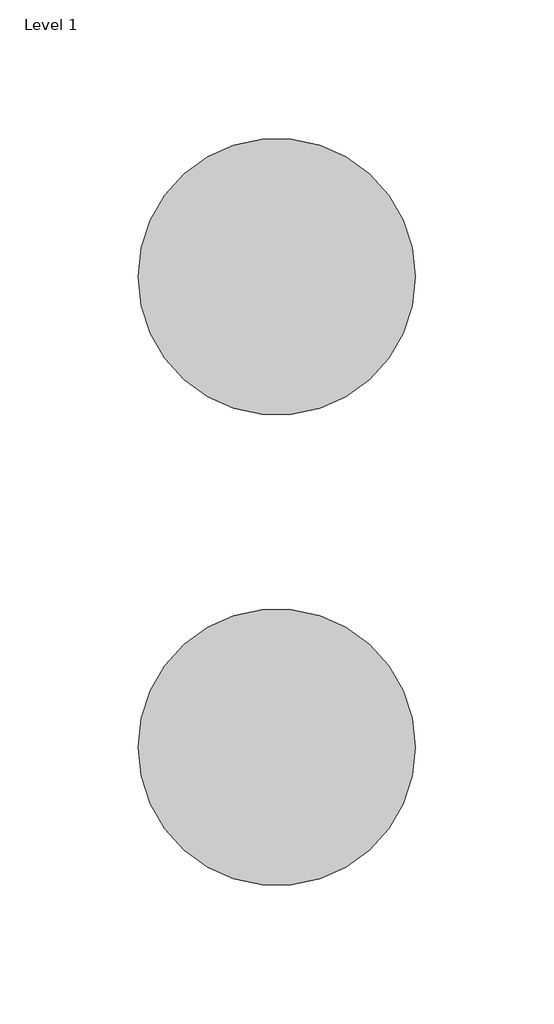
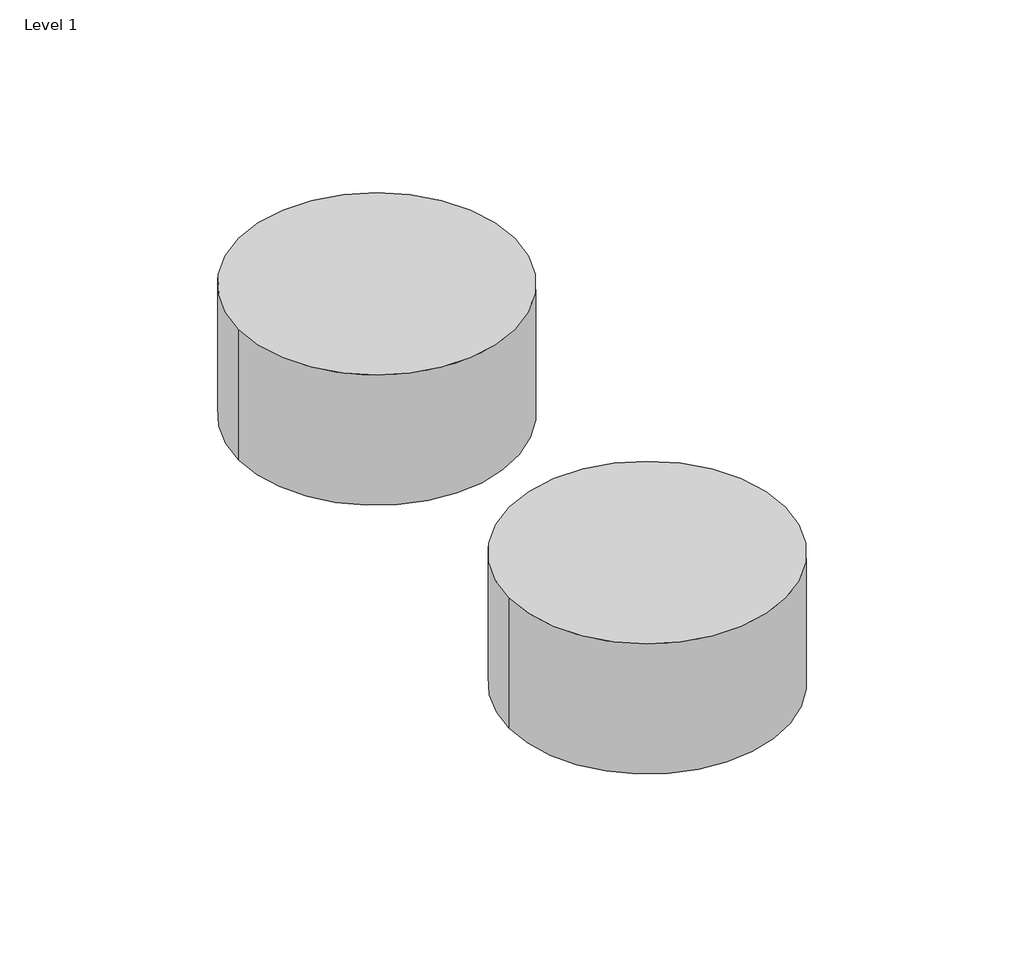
# One storey, incomplete: 2 proxies.
"""IFC4 building model written with IfcOpenShell, lengths in millimetres."""

import ifcopenshell
import ifcopenshell.guid

model = None  # the IFC model being written
_history = None  # IfcOwnerHistory: only IFC2X3 demands one
_inside = {}  # id of a spatial element -> (the spatial element, [elements in it])
_under = {}  # id of a project, library or spatial element -> (it, [spatial elements below it])
_declared = {}  # id of a project -> (the project, [libraries it declares])
_typed = {}  # id of a type object -> (the type object, [elements of that type])
_made_of = {}  # id of a material, layer set ... -> (it, [elements and type objects made of it])


def new_model(schema):
    """Start an empty IFC model of exactly this schema.

    Asked for "IFC4X3", IfcOpenShell would pick the latest addendum, in which some entities
    have other attributes; the version numbers below select the first issue.
    IFC2X3 requires an IfcOwnerHistory on every rooted entity: one is made here for all.
    """
    global model, _history
    if schema == "IFC4X3":
        model = ifcopenshell.file(schema_version=(4, 3, 0, 0))
    else:
        model = ifcopenshell.file(schema=schema)
    _inside.clear()
    _under.clear()
    _declared.clear()
    _typed.clear()
    _made_of.clear()
    _history = None
    if model.schema == "IFC2X3":
        org = make("IfcOrganization", Name="unknown")
        user = make(
            "IfcPersonAndOrganization",
            ThePerson=make("IfcPerson", FamilyName="unknown"),
            TheOrganization=org,
        )
        app = make(
            "IfcApplication",
            ApplicationDeveloper=org,
            Version="unknown",
            ApplicationFullName="unknown",
            ApplicationIdentifier="unknown",
        )
        _history = make(
            "IfcOwnerHistory",
            OwningUser=user,
            OwningApplication=app,
            ChangeAction="ADDED",
            CreationDate=0,
        )
    return model


def make(cls, **values):
    """One entity of the class cls with the attributes given. An attribute that is None is left unset."""
    return model.create_entity(
        cls, **{name: value for name, value in values.items() if value is not None}
    )


def rooted(cls, **values):
    """An entity with a GlobalId (a new one), such as an element, a storey or a relation."""
    return make(cls, GlobalId=ifcopenshell.guid.new(), OwnerHistory=_history, **values)


def si_unit(unit_type, name, prefix=None):
    """IfcSIUnit, for example si_unit("LENGTHUNIT", "METRE", prefix="MILLI")."""
    return make("IfcSIUnit", UnitType=unit_type, Prefix=prefix, Name=name)


def assignment(units):
    """IfcUnitAssignment: the units of a project."""
    return None if units is None else make("IfcUnitAssignment", Units=units)


def point(xyz):
    """IfcCartesianPoint."""
    return None if xyz is None else make("IfcCartesianPoint", Coordinates=xyz)


def direction(xyz):
    """IfcDirection."""
    return None if xyz is None else make("IfcDirection", DirectionRatios=xyz)


def frame(location, z_axis=None, x_axis=None):
    """IfcAxis2Placement3D, a coordinate frame: its origin and axes. An axis left out is left unset."""
    return make(
        "IfcAxis2Placement3D",
        Location=point(location),
        Axis=direction(z_axis),
        RefDirection=direction(x_axis),
    )


def frame_2d(location, x_axis=None):
    """IfcAxis2Placement2D, a coordinate frame in the plane: its origin and x axis."""
    return make(
        "IfcAxis2Placement2D", Location=point(location), RefDirection=direction(x_axis)
    )


def origin():
    """The frame at (0, 0, 0) with its axes left unset."""
    return frame((0.0, 0.0, 0.0))


def origin_with_axes():
    """The frame at (0, 0, 0) with the z axis (0, 0, 1) and the x axis (1, 0, 0) written out."""
    return frame((0.0, 0.0, 0.0), z_axis=(0.0, 0.0, 1.0), x_axis=(1.0, 0.0, 0.0))


def origin_2d():
    """The frame at (0, 0) in the plane with its x axis left unset."""
    return frame_2d((0.0, 0.0))


def place(relative_to, where):
    """IfcLocalPlacement: puts the frame where relative to a parent placement (None: the world)."""
    return make(
        "IfcLocalPlacement", PlacementRelTo=relative_to, RelativePlacement=where
    )


def context(
    kind, dimensions, precision=None, world=None, true_north=None, identifier=None
):
    """IfcGeometricRepresentationContext, for example the 3D "Model" context."""
    return make(
        "IfcGeometricRepresentationContext",
        ContextIdentifier=identifier,
        ContextType=kind,
        CoordinateSpaceDimension=dimensions,
        Precision=precision,
        WorldCoordinateSystem=world,
        TrueNorth=true_north,
    )


def project(units=None, contexts=None):
    """IfcProject with its units and contexts."""
    return rooted(
        "IfcProject",
        Name="project",
        RepresentationContexts=contexts,
        UnitsInContext=assignment(units),
    )


def spatial(cls, under=None, at=None, **own):
    """A site, building, storey or space (cls), placed at a placement, below another one or the project."""
    s = rooted(cls, ObjectPlacement=at, **own)
    if under is not None:
        _under.setdefault(under.id(), (under, []))[1].append(s)
    return s


def circle_curve(where, radius):
    """IfcCircle in the frame where."""
    return make("IfcCircle", Position=where, Radius=radius)


def trimmed(basis, trim1, trim2, sense, master):
    """IfcTrimmedCurve: the piece of a basis curve between two trims."""
    return make(
        "IfcTrimmedCurve",
        BasisCurve=basis,
        Trim1=trim1,
        Trim2=trim2,
        SenseAgreement=sense,
        MasterRepresentation=master,
    )


def segment(curve, same_sense, transition):
    """IfcCompositeCurveSegment."""
    return make(
        "IfcCompositeCurveSegment",
        Transition=transition,
        SameSense=same_sense,
        ParentCurve=curve,
    )


def composite_curve(segments, self_intersect=None):
    """IfcCompositeCurve: segments joined end to end."""
    return make("IfcCompositeCurve", Segments=segments, SelfIntersect=self_intersect)


def outline(outer, holes=None, kind="AREA"):
    """IfcArbitraryClosedProfileDef: a profile drawn as a closed curve; with holes, ...WithVoids."""
    if holes is None:
        return make("IfcArbitraryClosedProfileDef", ProfileType=kind, OuterCurve=outer)
    return make(
        "IfcArbitraryProfileDefWithVoids",
        ProfileType=kind,
        OuterCurve=outer,
        InnerCurves=holes,
    )


def extrude(swept, where, along, depth):
    """IfcExtrudedAreaSolid: the profile swept, set in the frame where, extruded along a direction by depth."""
    return make(
        "IfcExtrudedAreaSolid",
        SweptArea=swept,
        Position=where,
        ExtrudedDirection=direction(along),
        Depth=depth,
    )


def shape(context_of_items, identifier, shape_type, items):
    """IfcShapeRepresentation: the items that make up one representation, for example the "Body"."""
    return make(
        "IfcShapeRepresentation",
        ContextOfItems=context_of_items,
        RepresentationIdentifier=identifier,
        RepresentationType=shape_type,
        Items=items,
    )


def source(mapping_origin, context_of_items, identifier, shape_type, items):
    """IfcRepresentationMap: a shape defined once, which mapped items show again and again."""
    return make(
        "IfcRepresentationMap",
        MappingOrigin=mapping_origin,
        MappedRepresentation=shape(context_of_items, identifier, shape_type, items),
    )


def transform(
    local_origin,
    x_axis=None,
    y_axis=None,
    z_axis=None,
    scale=None,
    scale2=None,
    scale3=None,
    uniform=True,
):
    """IfcCartesianTransformationOperator3D, or its non-uniform kind. x_axis, y_axis, z_axis: its Axis1, 2, 3."""
    if uniform:
        return make(
            "IfcCartesianTransformationOperator3D",
            Axis1=direction(x_axis),
            Axis2=direction(y_axis),
            LocalOrigin=point(local_origin),
            Scale=scale,
            Axis3=direction(z_axis),
        )
    return make(
        "IfcCartesianTransformationOperator3DnonUniform",
        Axis1=direction(x_axis),
        Axis2=direction(y_axis),
        LocalOrigin=point(local_origin),
        Scale=scale,
        Axis3=direction(z_axis),
        Scale2=scale2,
        Scale3=scale3,
    )


def mapped(mapping_source, mapping_target):
    """IfcMappedItem: shows the shape of a source again, moved by a transform."""
    return make(
        "IfcMappedItem", MappingSource=mapping_source, MappingTarget=mapping_target
    )


def made_of(thing, what):
    """Note that an element or type object is made of a material, layer set ...; save() writes the relation."""
    if what is not None:
        _made_of.setdefault(what.id(), (what, []))[1].append(thing)
    return thing


def element(
    cls,
    number,
    at=None,
    inside=None,
    cuts=None,
    type_object=None,
    material=None,
    context=None,
    identifier="Body",
    shape_type=None,
    held_by="IfcProductDefinitionShape",
    body=None,
    shapes=None,
    **own,
):
    """One element of the class cls, such as IfcWall. Its Tag is "e" and its number.

    at: its placement. inside: the storey or other place that contains it. cuts: it is an
    opening in that element (IfcRelVoidsElement). A single representation is given by context,
    identifier, shape_type and body (its items); several are given by shapes. held_by: the class
    of the entity that holds the representations. save() writes the other relations.
    """
    e = rooted(cls, Tag="e%d" % number, ObjectPlacement=at, **own)
    if body is not None:
        shapes = [shape(context, identifier, shape_type, body)]
    if shapes is not None:
        e.Representation = make(held_by, Representations=shapes)
    if inside is not None:
        _inside.setdefault(inside.id(), (inside, []))[1].append(e)
    if cuts is not None:
        rooted(
            "IfcRelVoidsElement", RelatingBuildingElement=cuts, RelatedOpeningElement=e
        )
    if type_object is not None:
        _typed.setdefault(type_object.id(), (type_object, []))[1].append(e)
    return made_of(e, material)


def aggregate(whole, parts):
    """IfcRelAggregates: a whole, such as a stair, and the parts it consists of."""
    return rooted("IfcRelAggregates", RelatingObject=whole, RelatedObjects=parts)


def save(model, path):
    """Write the relations noted so far, then the file.

    IfcRelAggregates (storeys below a building ...), IfcRelContainedInSpatialStructure (elements
    in a storey), IfcRelDefinesByType, IfcRelAssociatesMaterial and IfcRelDeclares: one each for
    every whole, place, type object, material and project.
    """
    for whole, parts in _under.values():
        aggregate(whole, parts)
    for where, things in _inside.values():
        rooted(
            "IfcRelContainedInSpatialStructure",
            RelatedElements=things,
            RelatingStructure=where,
        )
    for kind, things in _typed.values():
        rooted("IfcRelDefinesByType", RelatedObjects=things, RelatingType=kind)
    for what, things in _made_of.values():
        rooted("IfcRelAssociatesMaterial", RelatedObjects=things, RelatingMaterial=what)
    for by, libraries in _declared.values():
        rooted("IfcRelDeclares", RelatingContext=by, RelatedDefinitions=libraries)
    model.write(path)


def materialmodel_materialmodel_02e69005(model_context):
    return source(origin(), model_context, "Body", "SweptSolid", [
        extrude(outline(composite_curve([segment(trimmed(circle_curve(origin_2d(), 50.0), [point((-50.0, 0.0))], [point((50.0, 0.0))], False, "CARTESIAN"), True, "CONTINUOUS"), segment(trimmed(circle_curve(origin_2d(), 50.0), [point((50.0, 0.0))], [point((-50.0, 0.0))], False, "CARTESIAN"), True, "CONTINUOUS")], self_intersect=False)), origin_with_axes(), (0.0, 0.0, 1.0), 50.0),
    ])


model = new_model("IFC4")

# Units and contexts
model_context = context("Model", 3, world=origin())
ifc_project = project(units=[si_unit("LENGTHUNIT", "METRE", prefix="MILLI")], contexts=[model_context])

# Site, building, storey
site = spatial("IfcSite", under=ifc_project)
building = spatial("IfcBuilding", under=site)
storey = spatial("IfcBuildingStorey", under=building, Name="Level 1", Elevation=0.0)

# Proxies
placement = place(None, origin())
materialmodel_materialmodel_shape = materialmodel_materialmodel_02e69005(model_context)
element("IfcBuildingElementProxy", 1, Name="MaterialModel : MaterialModel", ObjectType="MaterialModel : MaterialModel", at=placement, inside=storey, context=model_context, shape_type="MappedRepresentation", body=[
    mapped(materialmodel_materialmodel_shape, transform((-4104.688025, 6598.0689235, 0.0), x_axis=(1.0, 0.0, 0.0), y_axis=(0.0, 1.0, 0.0), z_axis=(0.0, 0.0, 1.0))),
])
element("IfcBuildingElementProxy", 2, Name="MaterialModel : MaterialModel", ObjectType="MaterialModel : MaterialModel", at=placement, inside=storey, context=model_context, shape_type="MappedRepresentation", body=[
    mapped(materialmodel_materialmodel_shape, transform((-4104.688025, 6428.0689235, 0.0), x_axis=(1.0, 0.0, 0.0), y_axis=(0.0, 1.0, 0.0), z_axis=(0.0, 0.0, 1.0))),
])

save(model, "model.ifc")
